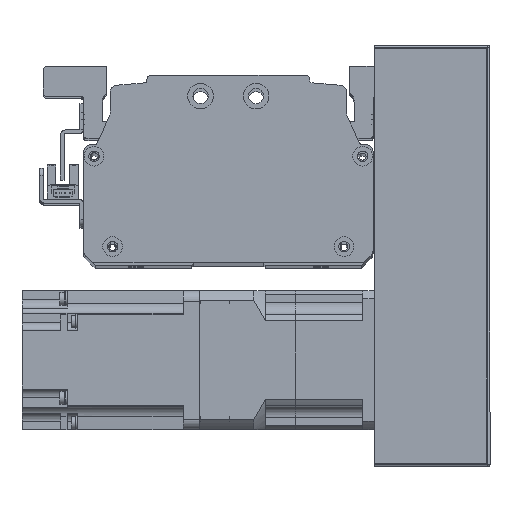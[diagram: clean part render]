
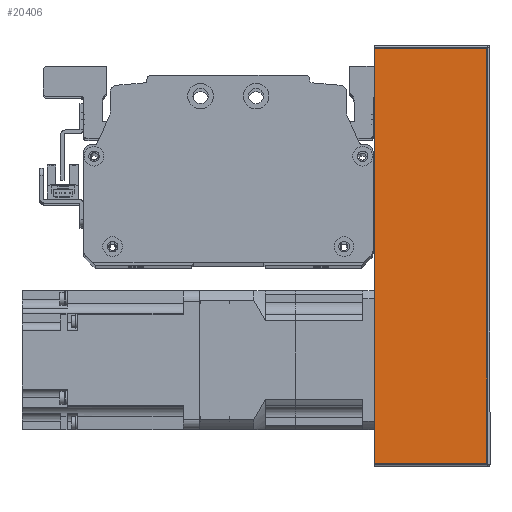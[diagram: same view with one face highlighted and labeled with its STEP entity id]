
A CAD part, top view. The second image highlights one B-rep face of the part: STEP entity #20406.
In plain terms, the highlighted planar face has unit normal (0, 0, 1) as drawn and (0, 1, 0) by its records, which use the part's own axes.
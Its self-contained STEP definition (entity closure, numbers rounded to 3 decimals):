
#568=PLANE('',#22389);
#1775=LINE('',#33207,#3399);
#1789=LINE('',#33252,#3413);
#1793=LINE('',#33274,#3417);
#1812=LINE('',#33337,#3436);
#3399=VECTOR('',#26966,10.);
#3413=VECTOR('',#27014,10.);
#3417=VECTOR('',#27048,10.);
#3436=VECTOR('',#27131,10.);
#5778=FACE_OUTER_BOUND('',#7210,.T.);
#7210=EDGE_LOOP('',(#17036,#17037,#17038,#17039));
#10034=VERTEX_POINT('',#33204);
#10035=VERTEX_POINT('',#33206);
#10048=VERTEX_POINT('',#33247);
#10049=VERTEX_POINT('',#33250);
#12463=EDGE_CURVE('',#10035,#10034,#1775,.T.);
#12487=EDGE_CURVE('',#10048,#10049,#1789,.T.);
#12499=EDGE_CURVE('',#10034,#10048,#1793,.T.);
#12530=EDGE_CURVE('',#10049,#10035,#1812,.T.);
#17036=ORIENTED_EDGE('',*,*,#12487,.T.);
#17037=ORIENTED_EDGE('',*,*,#12530,.T.);
#17038=ORIENTED_EDGE('',*,*,#12463,.T.);
#17039=ORIENTED_EDGE('',*,*,#12499,.T.);
#20406=ADVANCED_FACE('',(#5778),#568,.F.);
#22389=AXIS2_PLACEMENT_3D('',#33336,#27129,#27130);
#26966=DIRECTION('',(-1.,0.,0.));
#27014=DIRECTION('',(1.,0.,0.));
#27048=DIRECTION('',(0.,0.,1.));
#27129=DIRECTION('center_axis',(0.,-1.,0.));
#27130=DIRECTION('ref_axis',(-1.,0.,0.));
#27131=DIRECTION('',(0.,0.,-1.));
#33204=CARTESIAN_POINT('',(-90.,38.,-25.));
#33206=CARTESIAN_POINT('',(90.,38.,-25.));
#33207=CARTESIAN_POINT('',(-91.,38.,-25.));
#33247=CARTESIAN_POINT('',(-90.,38.,24.));
#33250=CARTESIAN_POINT('',(90.,38.,24.));
#33252=CARTESIAN_POINT('',(45.5,38.,24.));
#33274=CARTESIAN_POINT('',(-90.,38.,0.));
#33336=CARTESIAN_POINT('Origin',(91.,38.,0.));
#33337=CARTESIAN_POINT('',(90.,38.,0.));
